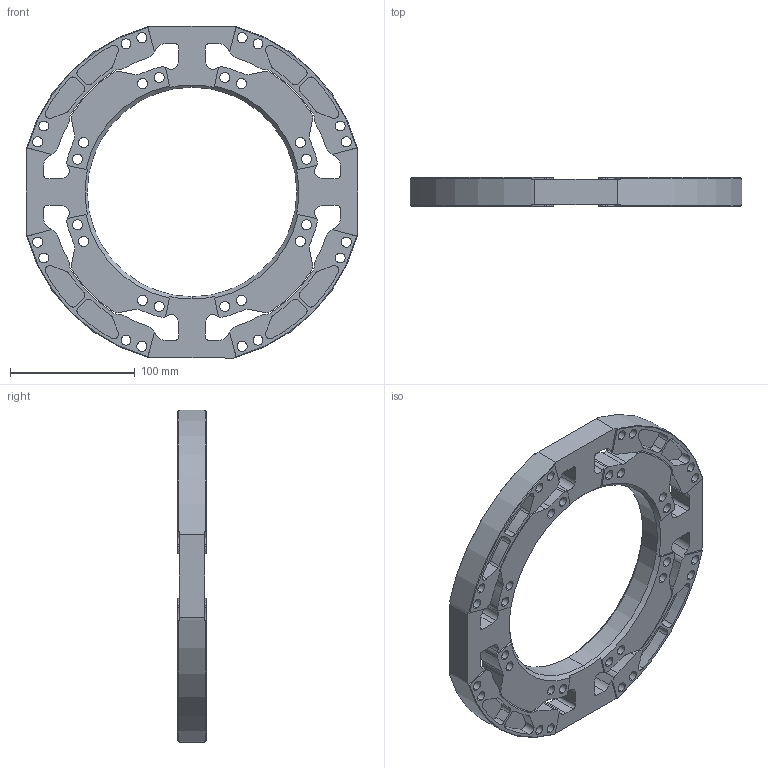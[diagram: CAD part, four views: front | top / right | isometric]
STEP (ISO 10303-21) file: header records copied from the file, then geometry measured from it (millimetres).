
FILE_DESCRIPTION (( 'STEP AP214' ), '1' );
FILE_NAME ('1018259.STEP', '2021-09-28T15:26:32', ( '' ), ( '' ), 'SwSTEP 2.0', 'SolidWorks 2020', '' );
FILE_SCHEMA (( 'AUTOMOTIVE_DESIGN' ));
Length unit declared in the file: inch
Products named in the file (1): 1018259
Bounding box: 265.68 x 22.86 x 265.68 mm (x, y, z)
Volume: 567889.8 mm3; surface area: 154260.6 mm2
Topology: 1 solids, 1 shells, 518 faces, 1486 edges, 976 vertices
Faces by surface type: cylinder 334, plane 156, cone 28
Entity records: 17354 total; most frequent: DIRECTION 3236, CARTESIAN_POINT 2965, ORIENTED_EDGE 2940, EDGE_CURVE 1470, AXIS2_PLACEMENT_3D 1247, VERTEX_POINT 976, LINE 742, VECTOR 742
